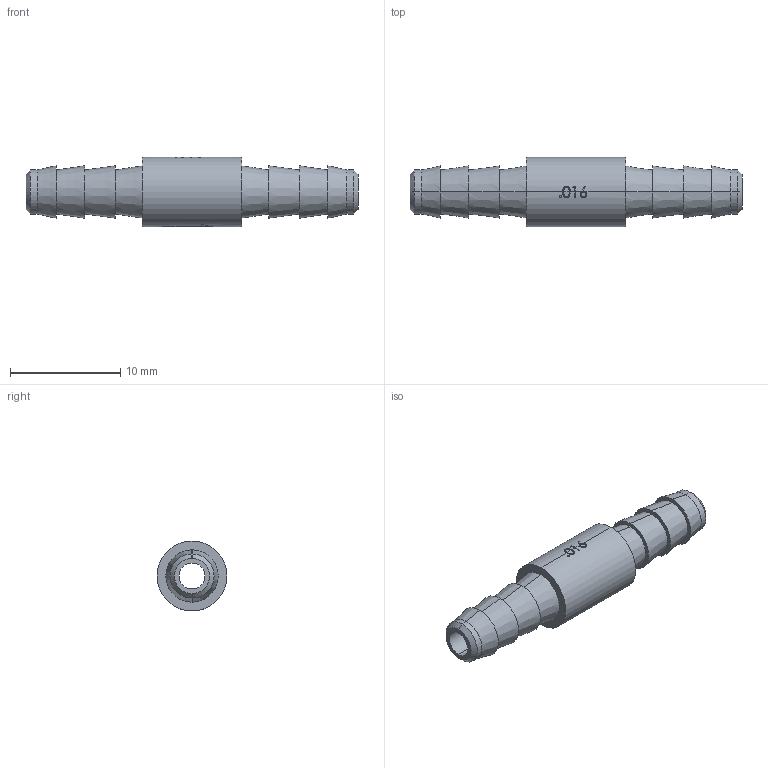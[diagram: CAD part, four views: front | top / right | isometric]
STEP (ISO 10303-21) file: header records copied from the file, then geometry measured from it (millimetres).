
FILE_DESCRIPTION(/* description */ ('SolidWorks IGES file using analytic representation for surfaces '),/* implementation_level */ '2;1');
FILE_NAME(/* name */ 'K:\Normteile INVENTOR\Air-Logic\Orifice restrictors\F-2815-161-B85.IGS.ipt.stp',/* time_stamp */ '2020-05-27T10:46:18+02:00',/* author */ ('cad'),/* organization */ (''),/* preprocessor_version */ 'ST-DEVELOPER v18',/* originating_system */ 'Autodesk Inventor 2020',/* authorisation */ '');
FILE_SCHEMA (('AP203_CONFIGURATION_CONTROLLED_3D_DESIGN_OF_MECHANICAL_PARTS_AND_ASSEMBLIES_MIM_LF { 1 0 10303 203 3 1 4 }','AUTOMOTIVE_DESIGN { 1 0 10303 214 3 1 1 }'));
Length unit declared in the file: millimetre
Products named in the file (1): F-2815-161-B85.IGS
Bounding box: 30.15 x 6.35 x 6.35 mm (x, y, z)
Surface area: 764.8 mm2 (no closed solid volume)
Topology: 0 solids, 87 shells, 87 faces, 407 edges, 407 vertices
Faces by surface type: bspline 28, cone 20, plane 20, cylinder 19
Entity records: 7091 total; most frequent: CARTESIAN_POINT 3996, DIRECTION 524, VERTEX_POINT 407, EDGE_CURVE 407, ORIENTED_EDGE 407, LINE 186, VECTOR 186, AXIS2_PLACEMENT_3D 169
